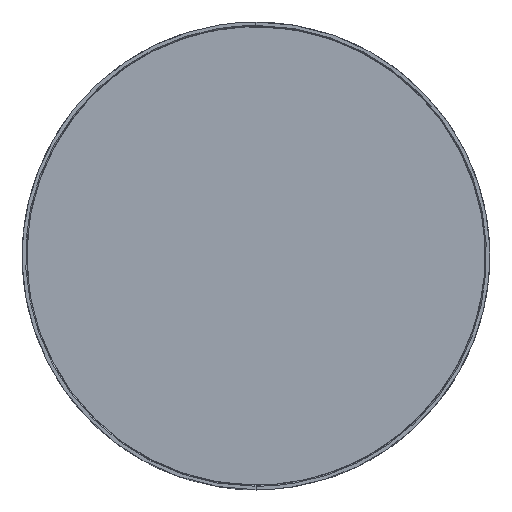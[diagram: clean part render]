
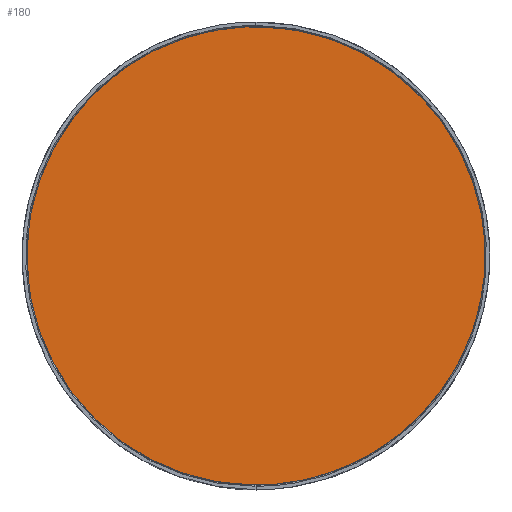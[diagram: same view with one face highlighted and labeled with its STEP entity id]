
A CAD part, top view. The second image highlights one B-rep face of the part: STEP entity #180.
In plain terms, the highlighted free-form (B-spline) face has degree [1, 1] with [2, 2] control points.
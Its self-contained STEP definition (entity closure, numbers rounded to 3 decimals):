
#180=ADVANCED_FACE('',(#508),#10938,.T.);
#508=FACE_OUTER_BOUND('',#836,.T.);
#836=EDGE_LOOP('',(#1255,#1256));
#1255=ORIENTED_EDGE('',*,*,#7571,.T.);
#1256=ORIENTED_EDGE('',*,*,#7570,.F.);
#2884=(
BOUNDED_CURVE()
B_SPLINE_CURVE(2,(#12258,#12259,#12260,#12261,#12262),.UNSPECIFIED.,.F.,
 .F.)
B_SPLINE_CURVE_WITH_KNOTS((3,2,3),(0.,157.08,314.159),
 .UNSPECIFIED.)
CURVE()
GEOMETRIC_REPRESENTATION_ITEM()
RATIONAL_B_SPLINE_CURVE((1.,0.707,1.,0.707,1.))
REPRESENTATION_ITEM('')
);
#2885=(
BOUNDED_CURVE()
B_SPLINE_CURVE(2,(#12265,#12266,#12267,#12268,#12269),.UNSPECIFIED.,.F.,
 .F.)
B_SPLINE_CURVE_WITH_KNOTS((3,2,3),(-628.319,-471.239,
-314.159),.UNSPECIFIED.)
CURVE()
GEOMETRIC_REPRESENTATION_ITEM()
RATIONAL_B_SPLINE_CURVE((1.,0.707,1.,0.707,1.))
REPRESENTATION_ITEM('')
);
#2886=(
BOUNDED_CURVE()
B_SPLINE_CURVE(2,(#12270,#12271,#12272,#12273,#12274),.UNSPECIFIED.,.F.,
 .F.)
B_SPLINE_CURVE_WITH_KNOTS((3,2,3),(-628.319,-471.239,
-314.159),.UNSPECIFIED.)
CURVE()
GEOMETRIC_REPRESENTATION_ITEM()
RATIONAL_B_SPLINE_CURVE((1.,0.707,1.,0.707,1.))
REPRESENTATION_ITEM('')
);
#2887=(
BOUNDED_CURVE()
B_SPLINE_CURVE(2,(#12275,#12276,#12277,#12278,#12279),.UNSPECIFIED.,.F.,
 .F.)
B_SPLINE_CURVE_WITH_KNOTS((3,2,3),(0.,157.08,314.159),
 .UNSPECIFIED.)
CURVE()
GEOMETRIC_REPRESENTATION_ITEM()
RATIONAL_B_SPLINE_CURVE((1.,0.707,1.,0.707,1.))
REPRESENTATION_ITEM('')
);
#3419=PCURVE('',#11150,#5097);
#3420=PCURVE('',#10938,#5098);
#3421=PCURVE('',#10938,#5099);
#3424=PCURVE('',#11151,#5102);
#5097=DEFINITIONAL_REPRESENTATION('',(#8457),#25956);
#5098=DEFINITIONAL_REPRESENTATION('',(#2886),#25956);
#5099=DEFINITIONAL_REPRESENTATION('',(#2887),#25956);
#5102=DEFINITIONAL_REPRESENTATION('',(#8458),#25956);
#6731=SURFACE_CURVE('',#2884,(#3419,#3421),.PCURVE_S1.);
#6732=SURFACE_CURVE('',#2885,(#3420,#3424),.PCURVE_S1.);
#7570=EDGE_CURVE('',#10419,#10421,#6731,.T.);
#7571=EDGE_CURVE('',#10419,#10421,#6732,.T.);
#8457=B_SPLINE_CURVE_WITH_KNOTS('',1,(#12263,#12264),.UNSPECIFIED.,.F.,
 .F.,(2,2),(0.,314.159),.UNSPECIFIED.);
#8458=B_SPLINE_CURVE_WITH_KNOTS('',1,(#12295,#12296),.UNSPECIFIED.,.F.,
 .F.,(2,2),(-628.319,-314.159),.UNSPECIFIED.);
#10419=VERTEX_POINT('',#12239);
#10421=VERTEX_POINT('',#12241);
#10938=B_SPLINE_SURFACE_WITH_KNOTS('',1,1,((#12221,#12222),(#12223,#12224)),
 .UNSPECIFIED.,.F.,.F.,.F.,(2,2),(2,2),(-125.,125.),(-125.,125.),
 .UNSPECIFIED.);
#11150=(
BOUNDED_SURFACE()
B_SPLINE_SURFACE(2,1,((#12211,#12212),(#12213,#12214),(#12215,#12216),(#12217,
#12218),(#12219,#12220)),.UNSPECIFIED.,.F.,.F.,.F.)
B_SPLINE_SURFACE_WITH_KNOTS((3,2,3),(2,2),(0.,157.08,314.159),
(0.,3.),.UNSPECIFIED.)
GEOMETRIC_REPRESENTATION_ITEM()
RATIONAL_B_SPLINE_SURFACE(((1.,1.),(0.707,0.707),
(1.,1.),(0.707,0.707),(1.,1.)))
REPRESENTATION_ITEM('')
SURFACE()
);
#11151=(
BOUNDED_SURFACE()
B_SPLINE_SURFACE(2,1,((#12229,#12230),(#12231,#12232),(#12233,#12234),(#12235,
#12236),(#12237,#12238)),.UNSPECIFIED.,.F.,.F.,.F.)
B_SPLINE_SURFACE_WITH_KNOTS((3,2,3),(2,2),(314.159,471.239,
628.319),(0.,3.),.UNSPECIFIED.)
GEOMETRIC_REPRESENTATION_ITEM()
RATIONAL_B_SPLINE_SURFACE(((1.,1.),(0.707,0.707),
(1.,1.),(0.707,0.707),(1.,1.)))
REPRESENTATION_ITEM('')
SURFACE()
);
#12211=CARTESIAN_POINT('',(-100.,0.,234.8));
#12212=CARTESIAN_POINT('',(-100.,0.,231.8));
#12213=CARTESIAN_POINT('',(-100.,100.,234.8));
#12214=CARTESIAN_POINT('',(-100.,100.,231.8));
#12215=CARTESIAN_POINT('',(0.,100.,234.8));
#12216=CARTESIAN_POINT('',(0.,100.,231.8));
#12217=CARTESIAN_POINT('',(100.,100.,234.8));
#12218=CARTESIAN_POINT('',(100.,100.,231.8));
#12219=CARTESIAN_POINT('',(100.,0.,234.8));
#12220=CARTESIAN_POINT('',(100.,0.,231.8));
#12221=CARTESIAN_POINT('',(125.,-125.,234.8));
#12222=CARTESIAN_POINT('',(-125.,-125.,234.8));
#12223=CARTESIAN_POINT('',(125.,125.,234.8));
#12224=CARTESIAN_POINT('',(-125.,125.,234.8));
#12229=CARTESIAN_POINT('',(100.,0.,234.8));
#12230=CARTESIAN_POINT('',(100.,0.,231.8));
#12231=CARTESIAN_POINT('',(100.,-100.,234.8));
#12232=CARTESIAN_POINT('',(100.,-100.,231.8));
#12233=CARTESIAN_POINT('',(0.,-100.,234.8));
#12234=CARTESIAN_POINT('',(0.,-100.,231.8));
#12235=CARTESIAN_POINT('',(-100.,-100.,234.8));
#12236=CARTESIAN_POINT('',(-100.,-100.,231.8));
#12237=CARTESIAN_POINT('',(-100.,0.,234.8));
#12238=CARTESIAN_POINT('',(-100.,0.,231.8));
#12239=CARTESIAN_POINT('',(-100.,0.,234.8));
#12241=CARTESIAN_POINT('',(100.,0.,234.8));
#12258=CARTESIAN_POINT('',(-100.,0.,234.8));
#12259=CARTESIAN_POINT('',(-100.,100.,234.8));
#12260=CARTESIAN_POINT('',(0.,100.,234.8));
#12261=CARTESIAN_POINT('',(100.,100.,234.8));
#12262=CARTESIAN_POINT('',(100.,0.,234.8));
#12263=CARTESIAN_POINT('',(0.,0.));
#12264=CARTESIAN_POINT('',(314.159,0.));
#12265=CARTESIAN_POINT('',(-100.,0.,234.8));
#12266=CARTESIAN_POINT('',(-100.,-100.,234.8));
#12267=CARTESIAN_POINT('',(0.,-100.,234.8));
#12268=CARTESIAN_POINT('',(100.,-100.,234.8));
#12269=CARTESIAN_POINT('',(100.,0.,234.8));
#12270=CARTESIAN_POINT('',(0.,100.));
#12271=CARTESIAN_POINT('',(-100.,100.));
#12272=CARTESIAN_POINT('',(-100.,0.));
#12273=CARTESIAN_POINT('',(-100.,-100.));
#12274=CARTESIAN_POINT('',(0.,-100.));
#12275=CARTESIAN_POINT('',(0.,100.));
#12276=CARTESIAN_POINT('',(100.,100.));
#12277=CARTESIAN_POINT('',(100.,0.));
#12278=CARTESIAN_POINT('',(100.,-100.));
#12279=CARTESIAN_POINT('',(0.,-100.));
#12295=CARTESIAN_POINT('',(628.319,0.));
#12296=CARTESIAN_POINT('',(314.159,0.));
#25956=(
GEOMETRIC_REPRESENTATION_CONTEXT(2)
PARAMETRIC_REPRESENTATION_CONTEXT()
REPRESENTATION_CONTEXT('pspace','')
);
